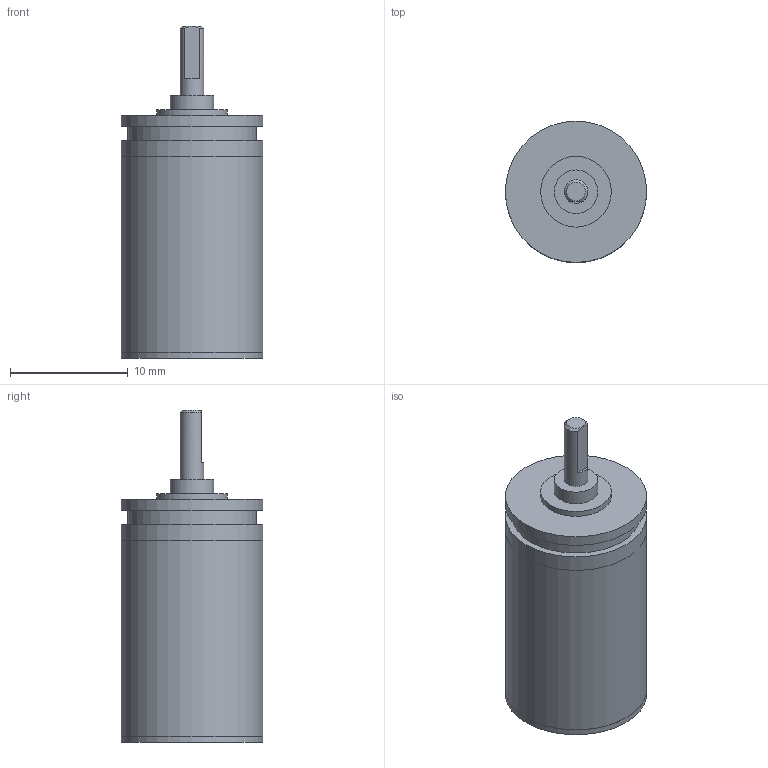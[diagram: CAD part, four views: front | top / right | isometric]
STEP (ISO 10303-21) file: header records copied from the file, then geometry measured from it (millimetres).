
FILE_DESCRIPTION(/* description */ (''),/* implementation_level */ '2;1');
FILE_NAME(/* name */ '12-3K_5.stp',/* time_stamp */ '2016-08-24T10:20:16+02:00',/* author */ ('DR. FRITZ FAULHABER GmbH & Co. KG'),/* organization */ ('DR. FRITZ FAULHABER GmbH & Co. KG'),/* preprocessor_version */ 'ST-DEVELOPER v16',/* originating_system */ 'SIEMENS PLM Software NX 10.0',/* authorisation */ '');
FILE_SCHEMA (('AUTOMOTIVE_DESIGN { 1 0 10303 214 3 1 1 1 }'));
Length unit declared in the file: millimetre
Products named in the file (1): H00000581_A
Bounding box: 12 x 12 x 28.2 mm (x, y, z)
Volume: 2279.2 mm3; surface area: 1165 mm2
Topology: 1 solids, 1 shells, 32 faces, 52 edges, 34 vertices
Faces by surface type: plane 16, cylinder 14, cone 2
Full cylindrical faces by diameter (mm): 2 x1, 2.48 x1, 2.6 x1, 3.7 x1, 5 x1, 6 x2, 10.88 x1, 11.99 x2, 12 x4
Entity records: 692 total; most frequent: DIRECTION 129, CARTESIAN_POINT 115, ORIENTED_EDGE 70, AXIS2_PLACEMENT_3D 63, EDGE_LOOP 59, FACE_BOUND 54, EDGE_CURVE 35, ADVANCED_FACE 32
